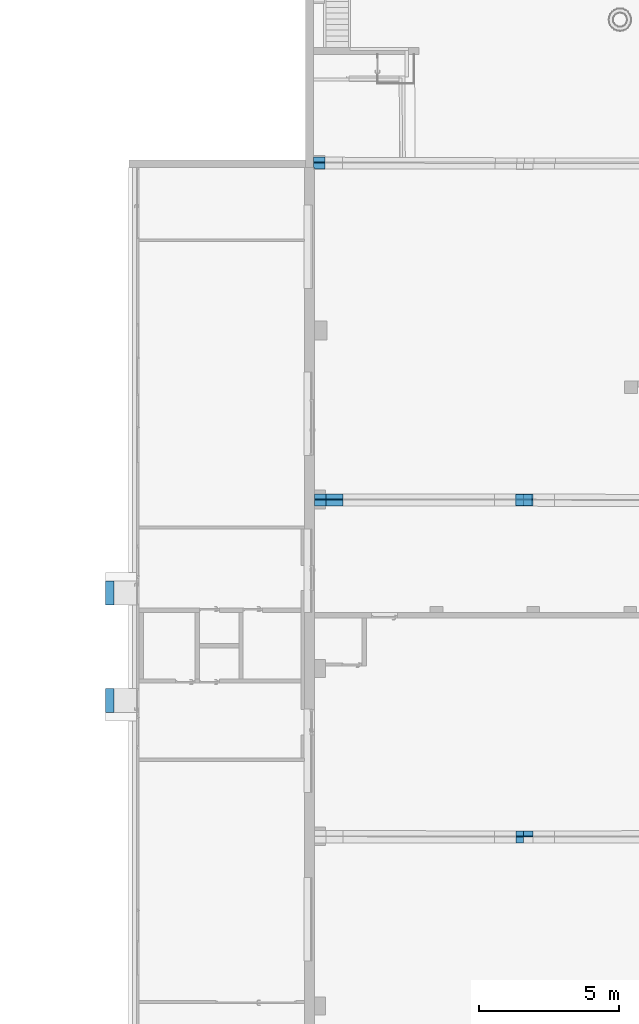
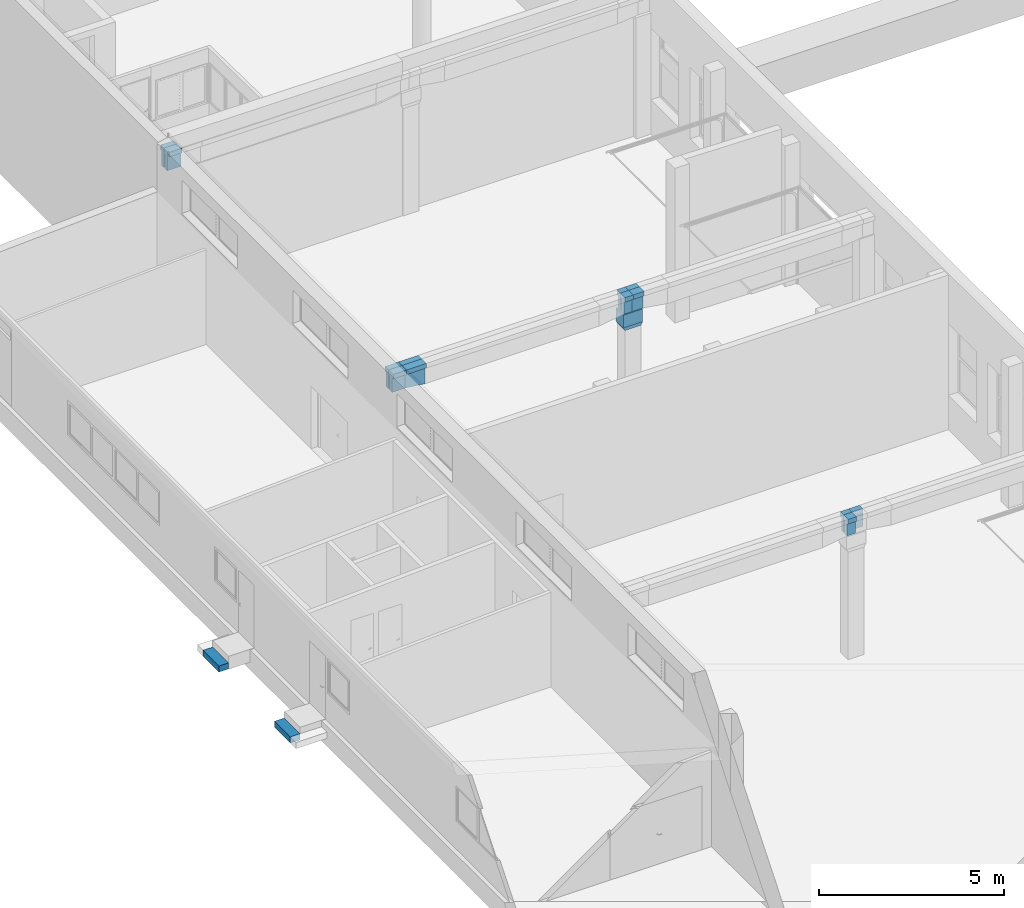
# One storey, part 224 of 301: 17 building element parts, 12 elements without a shape of their own.
"""IFC2X3 building model written with IfcOpenShell, lengths in millimetres."""

import ifcopenshell
import ifcopenshell.guid

model = None  # the IFC model being written
_history = None  # IfcOwnerHistory: only IFC2X3 demands one
_inside = {}  # id of a spatial element -> (the spatial element, [elements in it])
_under = {}  # id of a project, library or spatial element -> (it, [spatial elements below it])
_declared = {}  # id of a project -> (the project, [libraries it declares])
_typed = {}  # id of a type object -> (the type object, [elements of that type])
_made_of = {}  # id of a material, layer set ... -> (it, [elements and type objects made of it])


def new_model(schema):
    """Start an empty IFC model of exactly this schema.

    Asked for "IFC4X3", IfcOpenShell would pick the latest addendum, in which some entities
    have other attributes; the version numbers below select the first issue.
    IFC2X3 requires an IfcOwnerHistory on every rooted entity: one is made here for all.
    """
    global model, _history
    if schema == "IFC4X3":
        model = ifcopenshell.file(schema_version=(4, 3, 0, 0))
    else:
        model = ifcopenshell.file(schema=schema)
    _inside.clear()
    _under.clear()
    _declared.clear()
    _typed.clear()
    _made_of.clear()
    _history = None
    if model.schema == "IFC2X3":
        org = make("IfcOrganization", Name="unknown")
        user = make(
            "IfcPersonAndOrganization",
            ThePerson=make("IfcPerson", FamilyName="unknown"),
            TheOrganization=org,
        )
        app = make(
            "IfcApplication",
            ApplicationDeveloper=org,
            Version="unknown",
            ApplicationFullName="unknown",
            ApplicationIdentifier="unknown",
        )
        _history = make(
            "IfcOwnerHistory",
            OwningUser=user,
            OwningApplication=app,
            ChangeAction="ADDED",
            CreationDate=0,
        )
    return model


def make(cls, **values):
    """One entity of the class cls with the attributes given. An attribute that is None is left unset."""
    return model.create_entity(
        cls, **{name: value for name, value in values.items() if value is not None}
    )


def entity(cls, *values):
    """Any entity or typed value of the class cls, its attributes in the order of the schema. None: left unset."""
    e = model.create_entity(cls)
    for i, value in enumerate(values):
        if value is not None:
            e[i] = value
    return e


def rooted(cls, **values):
    """An entity with a GlobalId (a new one), such as an element, a storey or a relation."""
    return make(cls, GlobalId=ifcopenshell.guid.new(), OwnerHistory=_history, **values)


def si_unit(unit_type, name, prefix=None):
    """IfcSIUnit, for example si_unit("LENGTHUNIT", "METRE", prefix="MILLI")."""
    return make("IfcSIUnit", UnitType=unit_type, Prefix=prefix, Name=name)


def converted_unit(unit_type, name, factor, base, dimensions=None, offset=None):
    """IfcConversionBasedUnit, such as the inch: factor (a typed value) times the base unit."""
    return make(
        "IfcConversionBasedUnit"
        if offset is None
        else "IfcConversionBasedUnitWithOffset",
        ConversionOffset=offset,
        Dimensions=None
        if dimensions is None
        else entity("IfcDimensionalExponents", *dimensions),
        UnitType=unit_type,
        Name=name,
        ConversionFactor=make(
            "IfcMeasureWithUnit", ValueComponent=factor, UnitComponent=base
        ),
    )


def derived_unit(unit_type, elements):
    """IfcDerivedUnit: a product of units, each with its exponent."""
    return make(
        "IfcDerivedUnit",
        Elements=[
            make("IfcDerivedUnitElement", Unit=unit, Exponent=power)
            for unit, power in elements
        ],
        UnitType=unit_type,
    )


def money_unit(currency):
    """IfcMonetaryUnit."""
    return make("IfcMonetaryUnit", Currency=currency)


def assignment(units):
    """IfcUnitAssignment: the units of a project."""
    return None if units is None else make("IfcUnitAssignment", Units=units)


def point(xyz):
    """IfcCartesianPoint."""
    return None if xyz is None else make("IfcCartesianPoint", Coordinates=xyz)


def direction(xyz):
    """IfcDirection."""
    return None if xyz is None else make("IfcDirection", DirectionRatios=xyz)


def frame(location, z_axis=None, x_axis=None):
    """IfcAxis2Placement3D, a coordinate frame: its origin and axes. An axis left out is left unset."""
    return make(
        "IfcAxis2Placement3D",
        Location=point(location),
        Axis=direction(z_axis),
        RefDirection=direction(x_axis),
    )


def origin_with_axes():
    """The frame at (0, 0, 0) with the z axis (0, 0, 1) and the x axis (1, 0, 0) written out."""
    return frame((0.0, 0.0, 0.0), z_axis=(0.0, 0.0, 1.0), x_axis=(1.0, 0.0, 0.0))


def place(relative_to, where):
    """IfcLocalPlacement: puts the frame where relative to a parent placement (None: the world)."""
    return make(
        "IfcLocalPlacement", PlacementRelTo=relative_to, RelativePlacement=where
    )


def context(
    kind, dimensions, precision=None, world=None, true_north=None, identifier=None
):
    """IfcGeometricRepresentationContext, for example the 3D "Model" context."""
    return make(
        "IfcGeometricRepresentationContext",
        ContextIdentifier=identifier,
        ContextType=kind,
        CoordinateSpaceDimension=dimensions,
        Precision=precision,
        WorldCoordinateSystem=world,
        TrueNorth=true_north,
    )


def subcontext(parent, identifier, kind, view, scale=None):
    """IfcGeometricRepresentationSubContext, for example "Body" below "Model"."""
    return make(
        "IfcGeometricRepresentationSubContext",
        ContextIdentifier=identifier,
        ContextType=kind,
        ParentContext=parent,
        TargetScale=scale,
        TargetView=view,
    )


def project(units=None, contexts=None):
    """IfcProject with its units and contexts."""
    return rooted(
        "IfcProject",
        Name="project",
        RepresentationContexts=contexts,
        UnitsInContext=assignment(units),
    )


def spatial(cls, under=None, at=None, **own):
    """A site, building, storey or space (cls), placed at a placement, below another one or the project."""
    s = rooted(cls, ObjectPlacement=at, **own)
    if under is not None:
        _under.setdefault(under.id(), (under, []))[1].append(s)
    return s


def faces_of(points, faces, orient=None, outer=None):
    """IfcFace entities. A face is a list of loops; a loop is a list of indices into points, from 0.

    orient and outer hold one flag for each loop. By default every Orientation is true, the
    first loop of a face is its IfcFaceOuterBound and the others are IfcFaceBound.
    """
    made = []
    for i, loops in enumerate(faces):
        bounds = []
        for j, loop in enumerate(loops):
            is_outer = j == 0 if outer is None else outer[i][j]
            bounds.append(
                make(
                    "IfcFaceOuterBound" if is_outer else "IfcFaceBound",
                    Bound=make("IfcPolyLoop", Polygon=[points[k] for k in loop]),
                    Orientation=True if orient is None else orient[i][j],
                )
            )
        made.append(make("IfcFace", Bounds=bounds))
    return made


def faceted_brep(points, faces, orient=None, outer=None, voids=None):
    """IfcFacetedBrep: a solid bounded by flat faces; with voids (closed shells), ...WithVoids."""
    shared = [point(p) for p in points]
    hull = make("IfcClosedShell", CfsFaces=faces_of(shared, faces, orient, outer))
    if voids is None:
        return make("IfcFacetedBrep", Outer=hull)
    return make(
        "IfcFacetedBrepWithVoids",
        Outer=hull,
        Voids=[
            make(cls, CfsFaces=faces_of(shared, fs, o, b)) for cls, fs, o, b in voids
        ],
    )


def shape(context_of_items, identifier, shape_type, items):
    """IfcShapeRepresentation: the items that make up one representation, for example the "Body"."""
    return make(
        "IfcShapeRepresentation",
        ContextOfItems=context_of_items,
        RepresentationIdentifier=identifier,
        RepresentationType=shape_type,
        Items=items,
    )


def material(Name=None, Category=None):
    """IfcMaterial."""
    return make("IfcMaterial", Name=Name, Category=Category)


def made_of(thing, what):
    """Note that an element or type object is made of a material, layer set ...; save() writes the relation."""
    if what is not None:
        _made_of.setdefault(what.id(), (what, []))[1].append(thing)
    return thing


def type_object(cls, material=None, **own):
    """A type object (cls), such as IfcWallType, which elements share."""
    return made_of(rooted(cls, **own), material)


def element(
    cls,
    number,
    at=None,
    inside=None,
    cuts=None,
    type_object=None,
    material=None,
    context=None,
    identifier="Body",
    shape_type=None,
    held_by="IfcProductDefinitionShape",
    body=None,
    shapes=None,
    **own,
):
    """One element of the class cls, such as IfcWall. Its Tag is "e" and its number.

    at: its placement. inside: the storey or other place that contains it. cuts: it is an
    opening in that element (IfcRelVoidsElement). A single representation is given by context,
    identifier, shape_type and body (its items); several are given by shapes. held_by: the class
    of the entity that holds the representations. save() writes the other relations.
    """
    e = rooted(cls, Tag="e%d" % number, ObjectPlacement=at, **own)
    if body is not None:
        shapes = [shape(context, identifier, shape_type, body)]
    if shapes is not None:
        e.Representation = make(held_by, Representations=shapes)
    if inside is not None:
        _inside.setdefault(inside.id(), (inside, []))[1].append(e)
    if cuts is not None:
        rooted(
            "IfcRelVoidsElement", RelatingBuildingElement=cuts, RelatedOpeningElement=e
        )
    if type_object is not None:
        _typed.setdefault(type_object.id(), (type_object, []))[1].append(e)
    return made_of(e, material)


def aggregate(whole, parts):
    """IfcRelAggregates: a whole, such as a stair, and the parts it consists of."""
    return rooted("IfcRelAggregates", RelatingObject=whole, RelatedObjects=parts)


def save(model, path):
    """Write the relations noted so far, then the file.

    IfcRelAggregates (storeys below a building ...), IfcRelContainedInSpatialStructure (elements
    in a storey), IfcRelDefinesByType, IfcRelAssociatesMaterial and IfcRelDeclares: one each for
    every whole, place, type object, material and project.
    """
    for whole, parts in _under.values():
        aggregate(whole, parts)
    for where, things in _inside.values():
        rooted(
            "IfcRelContainedInSpatialStructure",
            RelatedElements=things,
            RelatingStructure=where,
        )
    for kind, things in _typed.values():
        rooted("IfcRelDefinesByType", RelatedObjects=things, RelatingType=kind)
    for what, things in _made_of.values():
        rooted("IfcRelAssociatesMaterial", RelatedObjects=things, RelatingMaterial=what)
    for by, libraries in _declared.values():
        rooted("IfcRelDeclares", RelatingContext=by, RelatedDefinitions=libraries)
    model.write(path)


model = new_model("IFC2X3")

# Units and contexts
model_context = context("Model", 3, precision=0.01, world=origin_with_axes(), true_north=direction((0.0, 1.0)))
body_context = subcontext(model_context, "Body", "Model", "MODEL_VIEW")
ifc_project = project(units=[si_unit("LENGTHUNIT", "METRE", prefix="MILLI"), si_unit("AREAUNIT", "SQUARE_METRE"), si_unit("VOLUMEUNIT", "CUBIC_METRE"), converted_unit("PLANEANGLEUNIT", "DEGREE", entity("IfcPlaneAngleMeasure", 0.0174532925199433), si_unit("PLANEANGLEUNIT", "RADIAN"), dimensions=[0, 0, 0, 0, 0, 0, 0]), money_unit("EUR"), converted_unit("TIMEUNIT", "Year", entity("IfcTimeMeasure", 31557600.0), si_unit("TIMEUNIT", "SECOND"), dimensions=[0, 0, 1, 0, 0, 0, 0]), si_unit("MASSUNIT", "GRAM", prefix="KILO"), si_unit("THERMODYNAMICTEMPERATUREUNIT", "DEGREE_CELSIUS"), si_unit("LUMINOUSINTENSITYUNIT", "LUMEN"), si_unit("ENERGYUNIT", "JOULE", prefix="MEGA"), derived_unit("THERMALCONDUCTANCEUNIT", [(si_unit("POWERUNIT", "WATT"), 1), (si_unit("LENGTHUNIT", "METRE"), -1), (si_unit("THERMODYNAMICTEMPERATUREUNIT", "KELVIN"), -1)]), derived_unit("SPECIFICHEATCAPACITYUNIT", [(si_unit("ENERGYUNIT", "JOULE"), 1), (si_unit("MASSUNIT", "GRAM", prefix="KILO"), -1), (si_unit("THERMODYNAMICTEMPERATUREUNIT", "KELVIN"), -1)]), derived_unit("MASSDENSITYUNIT", [(si_unit("MASSUNIT", "GRAM", prefix="KILO"), 1), (si_unit("VOLUMEUNIT", "CUBIC_METRE"), -1)])], contexts=[model_context])

# Site, building, storey
site_placement = place(None, frame((0.0, 0.0, 8650.0), z_axis=(0.0, 0.0, 1.0), x_axis=(1.0, 0.0, 0.0)))
site = spatial("IfcSite", under=ifc_project, at=site_placement, Name="43301:001:0844", CompositionType="ELEMENT")
building_placement = place(site_placement, origin_with_axes())
building = spatial("IfcBuilding", under=site, at=building_placement, Name="Kuressaare Ametikooli tuulikute mehaanikute õppekorpus", CompositionType="ELEMENT")
storey_placement = place(building_placement, origin_with_axes())
storey = spatial("IfcBuildingStorey", under=building, at=storey_placement, Name="1.korrus", CompositionType="ELEMENT", Elevation=0.0)

# Stair, building element part
stair_1_placement = place(storey_placement, frame((81268.61013779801, 94679.2841910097, -755.0), z_axis=(0.0, 0.0, 1.0), x_axis=(-0.000277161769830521, -0.999999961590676, 0.0)))
stair_1 = element("IfcStair", 1, at=stair_1_placement, inside=storey, Name="Trepp", ShapeType="NOTDEFINED")
ifc_material_1 = material(Name="GENEERILINE - KONSTRUKTRIOON")
building_element_part_1_placement = place(stair_1_placement, origin_with_axes())
building_element_part_1 = element("IfcBuildingElementPart", 2, at=building_element_part_1_placement, material=ifc_material_1, Name="GENEERILINE - KONSTRUKTRIOON", context=body_context, shape_type="Brep", body=[
    faceted_brep([(0.185698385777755, -477.1182246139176, 212.5), (-854.5632248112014, -477.2624430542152, 212.5), (-854.5632248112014, -477.2624430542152, 12.49999999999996), (0.185698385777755, -477.1182246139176, 12.49999999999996), (0.1345055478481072, -173.7106222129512, 212.5), (-854.6144176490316, -173.8548411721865, 212.5), (-854.6144176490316, -173.8548411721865, 12.49999999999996), (0.1345055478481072, -173.7106222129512, 12.49999999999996)], [[[0, 1, 2, 3]], [[0, 4, 5, 1]], [[1, 5, 6, 2]], [[2, 6, 7, 3]], [[4, 0, 3, 7]], [[5, 4, 7, 6]]]),
])
aggregate(stair_1, [building_element_part_1])

stair_2_placement = place(storey_placement, frame((81268.61013779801, 91683.83941314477, -755.0), z_axis=(0.0, 0.0, 1.0), x_axis=(-0.000277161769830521, 0.999999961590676, 0.0)))
stair_2 = element("IfcStair", 3, at=stair_2_placement, inside=storey, Name="Trepp", ShapeType="NOTDEFINED")
building_element_part_2_placement = place(stair_2_placement, origin_with_axes())
building_element_part_2 = element("IfcBuildingElementPart", 4, at=building_element_part_2_placement, material=ifc_material_1, Name="GENEERILINE - KONSTRUKTRIOON", context=body_context, shape_type="Brep", body=[
    faceted_brep([(0.1856983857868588, 477.1182246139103, 212.5), (0.1856983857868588, 477.1182246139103, 12.49999999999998), (-854.5632248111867, 477.2624430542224, 12.49999999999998), (-854.5632248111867, 477.2624430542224, 212.5), (0.1345055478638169, 173.7106222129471, 212.5), (0.1345055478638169, 173.7106222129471, 12.49999999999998), (-854.6144176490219, 173.8548411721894, 12.49999999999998), (-854.6144176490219, 173.8548411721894, 212.5)], [[[0, 1, 2, 3]], [[4, 5, 1, 0]], [[2, 1, 5, 6]], [[3, 2, 6, 7]], [[0, 3, 7, 4]], [[7, 6, 5, 4]]]),
])
aggregate(stair_2, [building_element_part_2])

# Column, building element parts
column_type = type_object("IfcColumnType", Name="Various Structures - 3 Segments - 600 x 400 x 4050 (3533+102+415)", PredefinedType="NOTDEFINED")
column_placement = place(storey_placement, frame((95731.50422307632, 98430.65950164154, -330.0), z_axis=(0.0, 0.0, 1.0), x_axis=(1.0, 0.0, 0.0)))
column = element("IfcColumn", 5, at=column_placement, inside=storey, type_object=column_type)
building_element_part_3_placement = place(column_placement, origin_with_axes())
building_element_part_3 = element("IfcBuildingElementPart", 6, at=building_element_part_3_placement, material=ifc_material_1, Name="GENEERILINE - KONSTRUKTRIOON", context=body_context, shape_type="Brep", body=[
    faceted_brep([(299.9999999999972, -200.0000000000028, 3635.0), (-299.9999999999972, -200.0000000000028, 3635.0), (-250.0, -200.0000000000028, 3532.979557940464), (250.0, -200.0000000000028, 3532.979557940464), (299.9999999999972, 200.0000000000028, 3635.0), (-299.9999999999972, 200.0000000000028, 3635.0), (-250.0, 200.0000000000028, 3532.979557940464), (250.0, 200.0000000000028, 3532.979557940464)], [[[0, 1, 2, 3]], [[4, 5, 1, 0]], [[1, 5, 6, 2]], [[7, 3, 2, 6]], [[4, 0, 3, 7]], [[5, 4, 7, 6]]]),
])
building_element_part_4_placement = place(column_placement, origin_with_axes())
building_element_part_4 = element("IfcBuildingElementPart", 7, at=building_element_part_4_placement, material=ifc_material_1, Name="GENEERILINE - KONSTRUKTRIOON", context=body_context, shape_type="Brep", body=[
    faceted_brep([(-299.9999999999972, -200.0000000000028, 4050.0), (-299.9999999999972, -200.0000000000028, 3635.0), (299.9999999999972, -200.0000000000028, 3635.0), (299.9999999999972, -200.0000000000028, 4050.0), (-299.9999999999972, 200.0000000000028, 4050.0), (-299.9999999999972, 200.0000000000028, 3635.0), (299.9999999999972, 200.0000000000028, 3635.0), (299.9999999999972, 200.0000000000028, 4050.0)], [[[0, 1, 2, 3]], [[4, 5, 1, 0]], [[2, 1, 5, 6]], [[3, 2, 6, 7]], [[4, 0, 3, 7]], [[7, 6, 5, 4]]]),
])
aggregate(column, [building_element_part_3, building_element_part_4])

# Beam, building element part
beam_type_1 = type_object("IfcBeamType", Name="Various Structures - 5 Segments - 250 x 700 x 7497 (338+766+5404+640+350)", PredefinedType="NOTDEFINED")
beam_1_placement = place(storey_placement, frame((95731.40168846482, 98524.34147844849, 4300.0), z_axis=(0.0, 0.0, 1.0), x_axis=(-0.004564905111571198, -0.999989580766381, 0.0)))
beam_1 = element("IfcBeam", 8, at=beam_1_placement, inside=storey, type_object=beam_type_1)
ifc_material_2 = material(Name="Raudbetoon")
building_element_part_5_placement = place(beam_1_placement, origin_with_axes())
building_element_part_5 = element("IfcBuildingElementPart", 9, at=building_element_part_5_placement, material=ifc_material_2, Name="Raudbetoon", context=body_context, shape_type="Brep", body=[
    faceted_brep([(125.0055545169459, 0.0, 0.0), (125.0055545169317, 0.2967471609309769, 0.0), (65.00617967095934, 0.2967471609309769, 0.0), (65.00617967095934, 337.7568168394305, 0.0), (-125.0055545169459, 337.7568168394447, 0.0), (-125.0055545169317, 0.0, 0.0), (125.005282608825, 0.0, -150.0000000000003), (125.0052826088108, 0.2967471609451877, -150.0000000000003), (65.00645157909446, 0.2967471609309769, -150.0000000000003), (95.00586709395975, 0.2967471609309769, -157.1998597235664), (65.00645157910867, 337.7568168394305, -150.0000000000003), (95.00586709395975, 337.7568168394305, -157.1998597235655), (64.99999999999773, 337.7568168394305, -164.4012678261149), (64.99999999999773, 337.7568168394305, -579.8231697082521), (-65.00000000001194, 337.7568168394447, -579.8231697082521), (-65.00000000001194, 337.7568168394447, -164.4012678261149), (-125.0052826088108, 337.7568168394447, -150.0000000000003), (-125.0052826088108, 0.0, -150.0000000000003), (-64.99999999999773, 0.0, -164.4012678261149), (-64.99999999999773, 0.0, -579.8231697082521), (64.99999999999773, 0.0, -579.8231697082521), (64.99999999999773, 0.0, -164.4012678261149)], [[[0, 1, 2, 3, 4, 5]], [[6, 7, 1, 0]], [[8, 2, 1, 7, 9]], [[8, 10, 3, 2]], [[3, 10, 11, 12, 13, 14, 15, 16, 4]], [[17, 5, 4, 16]], [[18, 19, 20, 21, 6, 0, 5, 17]], [[11, 9, 7, 6, 21, 12]], [[9, 11, 10, 8]], [[21, 20, 13, 12]], [[20, 19, 14, 13]], [[19, 18, 15, 14]], [[18, 17, 16, 15]]]),
])
aggregate(beam_1, [building_element_part_5])

# Beam, building element parts
beam_type_2 = type_object("IfcBeamType", Name="Various Structures - 5 Segments - 250 x 700 x 7473 (262+767+5416+621+406)", PredefinedType="NOTDEFINED")
beam_2_placement = place(storey_placement, frame((95731.40168846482, 98524.34147844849, 4300.0), z_axis=(0.0, 0.0, 1.0), x_axis=(0.0, 1.0, 0.0)))
beam_2 = element("IfcBeam", 10, at=beam_2_placement, inside=storey, type_object=beam_type_2)
building_element_part_6_placement = place(beam_2_placement, origin_with_axes())
building_element_part_6 = element("IfcBuildingElementPart", 11, at=building_element_part_6_placement, material=ifc_material_2, Name="Raudbetoon", context=body_context, shape_type="Brep", body=[
    faceted_brep([(-125.0055545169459, 0.570641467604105, 0.0), (-125.0055545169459, 0.2738941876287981, 0.0), (-65.00685697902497, 2.972811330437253e-06, 0.0), (125.0055545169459, 0.0, 0.0), (125.0055545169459, 261.7777961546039, 0.0), (-65.00555451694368, 261.7777961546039, 0.0), (-65.00555451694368, 0.570641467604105, 0.0), (-125.0052826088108, 0.570641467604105, -150.0000000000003), (-125.0052826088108, 0.273892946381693, -150.0000000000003), (-65.00712888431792, 4.214044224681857e-06, -150.0000000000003), (-95.00604946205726, 0.1369478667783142, -157.1998159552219), (-95.00636204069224, 0.0, -157.1997409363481), (-64.99999999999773, 0.0, -164.4012678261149), (-64.99999999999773, 0.0, -579.8231697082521), (64.99999999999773, 0.0, -579.8231697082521), (64.99999999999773, 0.0, -164.4012678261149), (125.0052826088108, 0.0, -150.0000000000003), (125.0052826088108, 261.7777961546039, -150.0000000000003), (-64.99999999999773, 261.7777961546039, -164.4012678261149), (-95.00555451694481, 261.7777961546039, -157.1999347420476), (-65.0058264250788, 261.7777961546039, -150.0000000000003), (64.99999999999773, 261.7777961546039, -164.4012678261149), (64.99999999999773, 261.7777961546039, -579.8231697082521), (-64.99999999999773, 261.7777961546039, -579.8231697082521), (-65.0058264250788, 0.570641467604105, -150.0000000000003), (-95.00555451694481, 0.570641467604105, -157.1999347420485)], [[[0, 1, 2, 3, 4, 5, 6]], [[7, 8, 1, 0]], [[9, 2, 1, 8, 10]], [[2, 9, 11, 12, 13, 14, 15, 16, 3]], [[4, 3, 16, 17]], [[18, 19, 20, 5, 4, 17, 21, 22, 23]], [[20, 24, 6, 5]], [[25, 7, 0, 6, 24]], [[11, 10, 8, 7, 25, 19, 18, 12]], [[10, 11, 9]], [[23, 13, 12, 18]], [[22, 14, 13, 23]], [[21, 15, 14, 22]], [[17, 16, 15, 21]], [[24, 20, 19, 25]]]),
])
building_element_part_7_placement = place(beam_2_placement, origin_with_axes())
building_element_part_7 = element("IfcBuildingElementPart", 12, at=building_element_part_7_placement, material=ifc_material_2, Name="Raudbetoon", context=body_context, shape_type="Brep", body=[
    faceted_brep([(-65.00590413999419, 6600.729668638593, 0.0), (-65.00555451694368, 6445.38326261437, 0.0), (-65.00555451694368, 6444.812621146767, 0.0), (125.0050883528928, 6444.812621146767, 0.0), (125.0052048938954, 6600.159027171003, 0.0), (125.0054379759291, 6910.851839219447, 0.0), (125.0055545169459, 7066.198245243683, 0.0), (-65.00555494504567, 7066.198245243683, 0.0), (-65.00567105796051, 6911.422480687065, 0.0), (-65.00569047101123, 6445.38326261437, -75.00000000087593), (-65.0058264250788, 6445.38326261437, -150.0000000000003), (-65.0058264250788, 6444.812621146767, -150.0000000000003), (-95.00530423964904, 6444.812621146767, -157.1998746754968), (-64.99999999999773, 6444.812621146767, -164.4011476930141), (-64.99999999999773, 6444.812621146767, -700.000000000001), (64.99999999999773, 6444.812621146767, -700.000000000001), (64.99999999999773, 6444.812621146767, -164.4011476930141), (125.0047820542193, 6444.812621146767, -150.0000000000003), (125.0049352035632, 6444.812621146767, -75.00000000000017), (125.0051768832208, 6755.505433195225, -75.00000000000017), (125.0054185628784, 7066.198245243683, -75.00000000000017), (-65.00582688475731, 7066.198245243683, -150.0000000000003), (-65.00569143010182, 7066.198245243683, -75.27550112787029), (-65.00569039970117, 7066.198245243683, -74.72449887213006), (125.0052826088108, 7066.198245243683, -150.0000000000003), (64.99999999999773, 7066.198245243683, -164.4012678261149), (64.99999999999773, 7066.198245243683, -629.9999999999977), (-64.99999999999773, 7066.198245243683, -629.9999999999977), (-64.99999999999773, 7066.198245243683, -164.4012678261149), (-95.00555474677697, 7066.198245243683, -157.1999346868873), (-65.00593215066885, 6756.076074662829, -75.00000000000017), (-65.00620184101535, 6600.729668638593, -150.0000000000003), (-65.00595156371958, 6911.422480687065, -150.0000000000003), (125.00515747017, 6910.851839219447, -150.0000000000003), (125.0049071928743, 6600.159027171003, -150.0000000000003)], [[[0, 1, 2, 3, 4, 5, 6, 7, 8]], [[0, 9, 1]], [[10, 11, 2, 1, 9]], [[2, 11, 12, 13, 14, 15, 16, 17, 18, 3]], [[3, 18, 4]], [[4, 19, 5]], [[5, 20, 6]], [[21, 22, 23, 7, 6, 20, 24, 25, 26, 27, 28, 29]], [[7, 23, 8]], [[8, 30, 0]], [[30, 31, 9, 0]], [[29, 12, 11, 10, 31, 32, 21]], [[31, 10, 9]], [[13, 12, 29, 28]], [[13, 28, 27, 14]], [[15, 14, 27, 26]], [[15, 26, 25, 16]], [[16, 25, 24, 33, 34, 17]], [[17, 34, 18]], [[34, 19, 4, 18]], [[33, 20, 5, 19]], [[21, 32, 22]], [[30, 8, 23, 22, 32]], [[33, 24, 20]], [[30, 32, 31]], [[34, 33, 19]]]),
])
building_element_part_8_placement = place(beam_2_placement, origin_with_axes())
building_element_part_8 = element("IfcBuildingElementPart", 13, at=building_element_part_8_placement, material=ifc_material_2, Name="Raudbetoon", context=body_context, shape_type="Brep", body=[
    faceted_brep([(125.0052826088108, 7066.198245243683, -150.0000000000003), (125.0052826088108, 7472.645241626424, -150.0000000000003), (125.0055545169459, 7472.645241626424, 0.0), (125.0055545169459, 7066.198245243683, 0.0), (64.99999999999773, 7066.198245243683, -164.4012678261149), (64.99999999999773, 7472.645241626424, -164.4012678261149), (-65.0058264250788, 7472.645241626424, -150.0000000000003), (-65.00555451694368, 7472.645241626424, 0.0), (64.99999999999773, 7472.645241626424, -629.999999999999), (-64.99999999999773, 7472.645241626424, -629.999999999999), (-64.99999999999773, 7472.645241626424, -164.4012678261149), (-95.00555452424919, 7472.645241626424, -157.1999347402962), (-65.00555451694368, 7066.768886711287, 0.0), (-65.00555494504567, 7066.198245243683, 0.0), (-65.00569039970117, 7066.198245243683, -74.72449887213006), (-65.00569143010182, 7066.198245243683, -75.27550112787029), (-65.00582688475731, 7066.198245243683, -150.0000000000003), (-95.00555474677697, 7066.198245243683, -157.1999346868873), (-64.99999999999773, 7066.198245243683, -164.4012678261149), (-64.99999999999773, 7066.198245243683, -629.999999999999), (64.99999999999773, 7066.198245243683, -629.999999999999), (-65.0058264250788, 7066.768886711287, -150.0000000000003), (-65.00569047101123, 7066.768886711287, -75.00000000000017)], [[[0, 1, 2, 3]], [[4, 5, 1, 0]], [[6, 7, 2, 1, 5, 8, 9, 10, 11]], [[3, 2, 7, 12, 13]], [[13, 14, 15, 16, 17, 18, 19, 20, 4, 0, 3]], [[20, 8, 5, 4]], [[12, 7, 6, 21, 22]], [[19, 9, 8, 20]], [[18, 10, 9, 19]], [[17, 11, 10, 18]], [[21, 6, 11, 17, 16]], [[14, 13, 12, 22]], [[15, 14, 22]], [[16, 15, 22, 21]]]),
])
aggregate(beam_2, [building_element_part_6, building_element_part_7, building_element_part_8])

# Beam, building element part
beam_3_placement = place(storey_placement, frame((95730.8310469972, 98334.3303694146, 4300.0), z_axis=(0.0, 0.0, 1.0), x_axis=(-0.004564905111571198, -0.999989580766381, 0.0)))
beam_3 = element("IfcBeam", 14, at=beam_3_placement, inside=storey, type_object=beam_type_1)
building_element_part_9_placement = place(beam_3_placement, origin_with_axes())
building_element_part_9 = element("IfcBuildingElementPart", 15, at=building_element_part_9_placement, material=ifc_material_2, Name="Raudbetoon", context=body_context, shape_type="Brep", body=[
    faceted_brep([(64.99999999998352, 0.0, -579.8231697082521), (64.99999999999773, 337.7568168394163, -579.8231697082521), (64.99999999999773, 337.7568168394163, -164.4012678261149), (64.99999999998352, 0.0, -164.4012678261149), (-65.00000000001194, 0.0, -579.8231697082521), (-65.00000000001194, 337.7568168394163, -579.8231697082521), (-65.00000000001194, 337.7568168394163, -164.4012678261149), (-125.0052826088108, 337.7568168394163, -150.0000000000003), (-125.0055545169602, 337.7568168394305, 0.0), (125.0055545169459, 337.7568168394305, 0.0), (125.0052826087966, 337.7568168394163, -150.0000000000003), (125.0052826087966, 0.0, -150.0000000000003), (125.0055545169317, 0.0, 0.0), (-125.0055545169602, 0.0, 0.0), (-125.005282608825, 0.0, -150.0000000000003), (-65.00000000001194, 0.0, -164.4012678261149)], [[[0, 1, 2, 3]], [[4, 5, 1, 0]], [[2, 1, 5, 6, 7, 8, 9, 10]], [[3, 2, 10, 11]], [[4, 0, 3, 11, 12, 13, 14, 15]], [[15, 6, 5, 4]], [[14, 7, 6, 15]], [[13, 8, 7, 14]], [[12, 9, 8, 13]], [[11, 10, 9, 12]]]),
])
aggregate(beam_3, [building_element_part_9])

# Beam, building element parts
beam_type_3 = type_object("IfcBeamType", Name="Various Structures - 5 Segments - 250 x 700 x 7472 (262+767+5416+621+406)", PredefinedType="NOTDEFINED")
beam_4_placement = place(storey_placement, frame((95730.8310469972, 98334.3303694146, 4300.0), z_axis=(0.0, 0.0, 1.0), x_axis=(0.0, 1.0, 0.0)))
beam_4 = element("IfcBeam", 16, at=beam_4_placement, inside=storey, type_object=beam_type_3)
building_element_part_10_placement = place(beam_4_placement, origin_with_axes())
building_element_part_10 = element("IfcBuildingElementPart", 17, at=building_element_part_10_placement, material=ifc_material_2, Name="Raudbetoon", context=body_context, shape_type="Brep", body=[
    faceted_brep([(64.99999999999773, 0.0, -579.8231697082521), (64.99999999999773, 261.7777961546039, -579.8231697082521), (64.99999999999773, 261.7777961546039, -164.4012678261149), (64.99999999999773, 0.0, -164.4012678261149), (-64.99999999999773, 0.0, -579.8231697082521), (-64.99999999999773, 261.7777961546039, -579.8231697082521), (-64.99999999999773, 261.7777961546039, -164.4012678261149), (-125.0052826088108, 261.7777961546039, -150.0000000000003), (-125.0055545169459, 261.7777961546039, 0.0), (125.0055545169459, 261.7777961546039, 0.0), (125.0052826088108, 261.7777961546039, -150.0000000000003), (125.0052826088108, 0.0, -150.0000000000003), (125.0055545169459, 0.0, 0.0), (-125.0055545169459, 0.0, 0.0), (-125.0052826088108, 0.0, -150.0000000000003), (-64.99999999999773, 0.0, -164.4012678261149)], [[[0, 1, 2, 3]], [[4, 5, 1, 0]], [[2, 1, 5, 6, 7, 8, 9, 10]], [[3, 2, 10, 11]], [[4, 0, 3, 11, 12, 13, 14, 15]], [[15, 6, 5, 4]], [[14, 7, 6, 15]], [[13, 8, 7, 14]], [[12, 9, 8, 13]], [[11, 10, 9, 12]]]),
])
building_element_part_11_placement = place(beam_4_placement, origin_with_axes())
building_element_part_11 = element("IfcBuildingElementPart", 18, at=building_element_part_11_placement, material=ifc_material_2, Name="Raudbetoon", context=body_context, shape_type="Brep", body=[
    faceted_brep([(64.99999999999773, 7066.198245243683, -164.4012678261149), (64.99999999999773, 6444.812621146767, -164.4011476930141), (64.99999999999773, 6444.812621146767, -700.000000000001), (64.99999999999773, 7066.198245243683, -629.9999999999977), (125.0052826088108, 7066.198245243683, -150.0000000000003), (125.00515747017, 6910.851839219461, -150.0000000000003), (125.0049071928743, 6600.159027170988, -150.0000000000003), (125.0047820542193, 6444.812621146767, -150.0000000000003), (-64.99999999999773, 6444.812621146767, -700.000000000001), (125.0049352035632, 6444.812621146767, -75.00000000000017), (125.0050883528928, 6444.812621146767, 0.0), (-125.0050883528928, 6444.812621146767, 0.0), (-125.0049352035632, 6444.812621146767, -75.00000000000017), (-125.0047820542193, 6444.812621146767, -150.0000000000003), (-64.99999999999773, 6444.812621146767, -164.4011476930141), (-64.99999999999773, 7066.198245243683, -629.9999999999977), (-64.99999999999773, 7066.198245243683, -164.4012678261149), (-125.0052826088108, 7066.198245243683, -150.0000000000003), (-125.0054185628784, 7066.198245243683, -75.00000000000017), (-125.0055545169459, 7066.198245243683, 0.0), (125.0055545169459, 7066.198245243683, 0.0), (125.0054185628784, 7066.198245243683, -75.00000000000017), (125.0051768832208, 6755.505433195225, -75.00000000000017), (125.0052048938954, 6600.159027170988, 0.0), (-125.0054379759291, 6910.851839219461, 0.0), (-125.0052048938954, 6600.159027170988, 0.0), (125.0054379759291, 6910.851839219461, 0.0), (-125.0049071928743, 6600.159027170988, -150.0000000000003), (-125.00515747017, 6910.851839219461, -150.0000000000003), (-125.0051768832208, 6755.505433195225, -75.00000000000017)], [[[0, 1, 2, 3]], [[4, 5, 6, 7, 1, 0]], [[8, 2, 1, 7, 9, 10, 11, 12, 13, 14]], [[15, 3, 2, 8]], [[0, 3, 15, 16, 17, 18, 19, 20, 21, 4]], [[21, 5, 4]], [[22, 6, 5]], [[9, 7, 6]], [[23, 10, 9]], [[19, 24, 25, 11, 10, 23, 26, 20]], [[12, 11, 25]], [[27, 13, 12]], [[16, 14, 13, 27, 28, 17]], [[15, 8, 14, 16]], [[17, 28, 18]], [[18, 24, 19]], [[20, 26, 21]], [[26, 22, 5, 21]], [[23, 9, 6, 22]], [[29, 25, 24]], [[26, 23, 22]], [[27, 12, 25, 29]], [[28, 27, 29]], [[28, 29, 24, 18]]]),
])
building_element_part_12_placement = place(beam_4_placement, origin_with_axes())
building_element_part_12 = element("IfcBuildingElementPart", 19, at=building_element_part_12_placement, material=ifc_material_2, Name="Raudbetoon", context=body_context, shape_type="Brep", body=[
    faceted_brep([(125.0052826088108, 7066.198245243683, -150.0000000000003), (125.0052826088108, 7472.07460015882, -150.0000000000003), (125.0055545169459, 7472.07460015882, 0.0), (125.0055545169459, 7066.198245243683, 0.0), (64.99999999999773, 7066.198245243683, -164.4012678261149), (64.99999999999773, 7472.07460015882, -164.4012678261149), (-125.0052826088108, 7472.07460015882, -150.0000000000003), (-125.0055545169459, 7472.07460015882, 0.0), (64.99999999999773, 7472.07460015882, -629.999999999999), (-64.99999999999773, 7472.07460015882, -629.999999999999), (-64.99999999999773, 7472.07460015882, -164.4012678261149), (-125.0055545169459, 7066.198245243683, 0.0), (-64.99999999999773, 7066.198245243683, -164.4012678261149), (-64.99999999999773, 7066.198245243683, -629.999999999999), (64.99999999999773, 7066.198245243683, -629.999999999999), (-125.0052826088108, 7066.198245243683, -150.0000000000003)], [[[0, 1, 2, 3]], [[4, 5, 1, 0]], [[6, 7, 2, 1, 5, 8, 9, 10]], [[3, 2, 7, 11]], [[12, 13, 14, 4, 0, 3, 11, 15]], [[14, 8, 5, 4]], [[11, 7, 6, 15]], [[13, 9, 8, 14]], [[12, 10, 9, 13]], [[15, 6, 10, 12]]]),
])
aggregate(beam_4, [building_element_part_10, building_element_part_11, building_element_part_12])

# Beam, building element part
beam_type_4 = type_object("IfcBeamType", Name="Various Structures - 5 Segments - 250 x 700 x 7549 (262+767+5479+621+420)", PredefinedType="NOTDEFINED")
beam_5_placement = place(storey_placement, frame((95768.13751728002, 110534.9689250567, 4300.0), z_axis=(0.0, 0.0, 1.0), x_axis=(0.003367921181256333, 0.9999943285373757, 0.0)))
beam_5 = element("IfcBeam", 20, at=beam_5_placement, inside=storey, type_object=beam_type_4)
building_element_part_13_placement = place(beam_5_placement, origin_with_axes())
building_element_part_13 = element("IfcBuildingElementPart", 21, at=building_element_part_13_placement, material=ifc_material_2, Name="Raudbetoon", context=body_context, shape_type="Brep", body=[
    faceted_brep([(64.99999999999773, 7549.435705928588, -629.999999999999), (-4.831690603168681e-09, 7549.435705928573, -629.999999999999), (-4.831690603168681e-09, 7549.435705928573, 0.0), (125.0055545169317, 7549.435705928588, 0.0), (125.0052826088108, 7549.435705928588, -150.0000000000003), (64.99999999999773, 7549.435705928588, -164.4012678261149), (-65.00000000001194, 7129.657185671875, -629.999999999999), (-65.00000000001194, 7549.217287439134, -629.999999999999), (64.99999999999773, 7129.657185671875, -629.999999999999), (-48.19878587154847, 7549.273744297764, -150.0000000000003), (-48.19851396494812, 7549.273745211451, 0.0), (-65.00000000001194, 7549.217287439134, -164.4012678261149), (-86.6019247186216, 7549.144698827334, -159.2168053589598), (-46.7852704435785, 7129.65718567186, 0.0), (125.0055545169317, 7129.657185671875, 0.0), (125.0052826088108, 7129.657185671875, -150.0000000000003), (64.99999999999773, 7129.657185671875, -164.4012678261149), (-65.00000000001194, 7129.657185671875, -164.4012678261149), (-46.78554235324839, 7129.657185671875, -150.0000000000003), (-85.89552338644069, 7129.657185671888, -159.3863422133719)], [[[0, 1, 2, 3, 4, 5]], [[6, 7, 1, 0, 8]], [[9, 10, 2, 1, 7, 11, 12]], [[3, 2, 10, 13, 14]], [[15, 4, 3, 14]], [[16, 5, 4, 15]], [[8, 0, 5, 16]], [[17, 11, 7, 6]], [[16, 15, 14, 13, 18, 19, 17, 6, 8]], [[13, 10, 9, 18]], [[19, 12, 11, 17]], [[18, 9, 12, 19]]]),
])
aggregate(beam_5, [building_element_part_13])

beam_type_5 = type_object("IfcBeamType", Name="Various Structures - 5 Segments - 250 x 700 x 7519 (262+767+5449+621+420)", PredefinedType="NOTDEFINED")
beam_6_placement = place(storey_placement, frame((95737.96269673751, 110387.1904888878, 4300.0), z_axis=(0.0, 0.0, 1.0), x_axis=(0.0, 1.0, 0.0)))
beam_6 = element("IfcBeam", 22, at=beam_6_placement, inside=storey, type_object=beam_type_5)
building_element_part_14_placement = place(beam_6_placement, origin_with_axes())
building_element_part_14 = element("IfcBuildingElementPart", 23, at=building_element_part_14_placement, material=ifc_material_2, Name="Raudbetoon", context=body_context, shape_type="Brep", body=[
    faceted_brep([(-68.34833317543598, 7519.219395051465, 0.0), (-68.3486395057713, 7479.206249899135, 0.0), (-125.0055545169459, 7479.206249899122, 0.0), (-125.0055545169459, 7099.440874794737, 0.0), (125.0055545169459, 7099.440874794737, 0.0), (125.0055545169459, 7519.219395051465, 0.0), (-68.3486395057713, 7479.206249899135, -163.597594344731), (-68.34833317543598, 7519.219395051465, -163.5976678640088), (-125.0052826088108, 7479.206249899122, -150.0000000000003), (-125.0052826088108, 7099.440874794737, -150.0000000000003), (-64.99999999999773, 7099.440874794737, -164.4012678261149), (-64.99999999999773, 7099.440874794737, -629.999999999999), (64.99999999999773, 7099.440874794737, -629.999999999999), (64.99999999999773, 7099.440874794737, -164.4012678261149), (125.0052826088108, 7099.440874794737, -150.0000000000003), (125.0052826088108, 7519.219395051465, -150.0000000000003), (-64.99999999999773, 7519.219395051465, -164.4012678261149), (64.99999999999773, 7519.219395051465, -164.4012678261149), (64.99999999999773, 7519.219395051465, -629.999999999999), (-64.99999999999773, 7519.219395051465, -629.999999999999)], [[[0, 1, 2, 3, 4, 5]], [[6, 1, 0, 7]], [[8, 2, 1, 6]], [[3, 2, 8, 9]], [[10, 11, 12, 13, 14, 4, 3, 9]], [[4, 14, 15, 5]], [[16, 7, 0, 5, 15, 17, 18, 19]], [[8, 6, 7, 16, 10, 9]], [[11, 10, 16, 19]], [[12, 11, 19, 18]], [[13, 12, 18, 17]], [[14, 13, 17, 15]]]),
])
aggregate(beam_6, [building_element_part_14])

beam_type_6 = type_object("IfcBeamType", Name="Various Structures - 5 Segments - 250 x 700 x 7496 (338+766+5404+640+349)", PredefinedType="NOTDEFINED")
beam_7_placement = place(storey_placement, frame((95731.40168846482, 86476.84788949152, 4300.0), z_axis=(0.0, 0.0, 1.0), x_axis=(0.001815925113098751, -0.9999983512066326, 0.0)))
beam_7 = element("IfcBeam", 24, at=beam_7_placement, inside=storey, type_object=beam_type_6)
building_element_part_15_placement = place(beam_7_placement, origin_with_axes())
building_element_part_15 = element("IfcBuildingElementPart", 25, at=building_element_part_15_placement, material=ifc_material_2, Name="Raudbetoon", context=body_context, shape_type="Brep", body=[
    faceted_brep([(-125.0055545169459, 0.0, 0.0), (51.38877465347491, 0.0, 0.0), (52.41258945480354, 337.2437963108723, 0.0), (52.41441914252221, 337.7568168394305, 0.0), (-125.0055545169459, 337.7568168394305, 0.0), (88.19724939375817, 0.0, -158.8339279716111), (51.38904656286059, 0.0, -150.0000000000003), (-125.0052826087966, 0.0, -150.0000000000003), (-64.99999999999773, 0.0, -164.4012678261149), (-64.99999999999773, 0.0, -579.8231697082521), (64.99999999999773, 0.0, -579.8231697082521), (64.99999999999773, 0.0, -164.4012678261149), (52.4128613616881, 337.2437954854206, -150.0000000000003), (52.41272540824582, 337.2437958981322, -75.00000000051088), (52.41456442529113, 337.7568168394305, -74.7990584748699), (52.41456523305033, 337.7568168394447, -75.20094152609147), (52.41471051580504, 337.7568168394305, -150.0000000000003), (88.7100802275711, 337.7568168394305, -158.7108485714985), (65.00000000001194, 337.7568168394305, -164.4012678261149), (65.00000000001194, 337.7568168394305, -579.8231697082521), (-64.99999999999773, 337.7568168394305, -579.8231697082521), (-64.99999999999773, 337.7568168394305, -164.4012678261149), (-125.0052826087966, 337.7568168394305, -150.0000000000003)], [[[0, 1, 2, 3, 4]], [[5, 6, 1, 0, 7, 8, 9, 10, 11]], [[12, 13, 2, 1, 6]], [[3, 2, 13, 14]], [[3, 14, 15, 16, 17, 18, 19, 20, 21, 22, 4]], [[22, 7, 0, 4]], [[16, 12, 6, 5, 17]], [[21, 8, 7, 22]], [[20, 9, 8, 21]], [[19, 10, 9, 20]], [[18, 11, 10, 19]], [[17, 5, 11, 18]], [[15, 13, 12, 16]], [[14, 13, 15]]]),
])
aggregate(beam_7, [building_element_part_15])

beam_type_7 = type_object("IfcBeamType", Name="Various Structures - 5 Segments - 250 x 700 x 7473 (262+767+5416+621+407)", PredefinedType="NOTDEFINED")
beam_8_placement = place(storey_placement, frame((95731.40168846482, 86476.84788949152, 4300.0), z_axis=(0.0, 0.0, 1.0), x_axis=(0.001819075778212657, 0.9999983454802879, 0.0)))
beam_8 = element("IfcBeam", 26, at=beam_8_placement, inside=storey, type_object=beam_type_7)
building_element_part_16_placement = place(beam_8_placement, origin_with_axes())
building_element_part_16 = element("IfcBuildingElementPart", 27, at=building_element_part_16_placement, material=ifc_material_2, Name="Raudbetoon", context=body_context, shape_type="Brep", body=[
    faceted_brep([(-125.0055545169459, 0.3432474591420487, 0.0), (-125.0055545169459, 0.2805585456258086, 0.0), (-51.38874160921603, 0.3246684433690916, 0.0), (-51.38854707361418, 0.0, 0.0), (125.0055545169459, 0.0, 0.0), (125.0055545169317, 261.7777961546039, 0.0), (-51.86425243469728, 261.7777961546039, 0.0), (-51.38892599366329, 0.4771619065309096, 0.0), (-125.005282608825, 0.3432479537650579, -150.0000000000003), (-125.005282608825, 0.2805587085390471, -150.0000000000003), (-51.38901351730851, 0.3246682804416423, -150.0000000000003), (-88.19714475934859, 0.3026134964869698, -158.8339530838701), (-51.38881898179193, 0.0, -150.0000000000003), (-88.19705409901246, 0.0, -158.8339748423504), (-64.99999999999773, 0.0, -164.4012678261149), (-64.99999999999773, 0.0, -579.8231697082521), (64.99999999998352, 0.0, -579.8231697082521), (64.99999999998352, 0.0, -164.4012678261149), (125.0052826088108, 0.0, -150.0000000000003), (125.0052826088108, 261.7777961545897, -150.0000000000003), (-65.00000000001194, 261.7777961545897, -164.4012678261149), (-88.4349337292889, 261.7777961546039, -158.7768837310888), (-51.86452434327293, 261.7777961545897, -150.0000000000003), (64.99999999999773, 261.7777961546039, -164.4012678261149), (64.99999999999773, 261.7777961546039, -579.8231697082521), (-65.00000000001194, 261.7777961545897, -579.8231697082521), (-51.38919790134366, 0.4771614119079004, -150.0000000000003), (-88.19720980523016, 0.4102047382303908, -158.8339374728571)], [[[0, 1, 2, 3, 4, 5, 6, 7]], [[8, 9, 1, 0]], [[10, 2, 1, 9, 11]], [[10, 12, 3, 2]], [[3, 12, 13, 14, 15, 16, 17, 18, 4]], [[5, 4, 18, 19]], [[20, 21, 22, 6, 5, 19, 23, 24, 25]], [[22, 26, 7, 6]], [[27, 8, 0, 7, 26]], [[13, 11, 9, 8, 27, 21, 20, 14]], [[11, 13, 12, 10]], [[25, 15, 14, 20]], [[24, 16, 15, 25]], [[23, 17, 16, 24]], [[19, 18, 17, 23]], [[26, 22, 21, 27]]]),
])
aggregate(beam_8, [building_element_part_16])

beam_9_placement = place(storey_placement, frame((95730.8310469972, 86300.45436199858, 4300.0), z_axis=(0.0, 0.0, 1.0), x_axis=(0.0, 1.0, 0.0)))
beam_9 = element("IfcBeam", 28, at=beam_9_placement, inside=storey, type_object=beam_type_3)
building_element_part_17_placement = place(beam_9_placement, origin_with_axes())
building_element_part_17 = element("IfcBuildingElementPart", 29, at=building_element_part_17_placement, material=ifc_material_2, Name="Raudbetoon", context=body_context, shape_type="Brep", body=[
    faceted_brep([(64.99999999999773, 0.0, -579.8231697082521), (64.99999999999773, 261.7777961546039, -579.8231697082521), (64.99999999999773, 261.7777961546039, -164.4012678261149), (64.99999999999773, 0.0, -164.4012678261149), (-64.99999999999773, 0.0, -579.8231697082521), (-64.99999999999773, 261.7777961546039, -579.8231697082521), (-64.99999999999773, 261.7777961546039, -164.4012678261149), (-125.0052826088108, 261.7777961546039, -150.0000000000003), (-125.0055545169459, 261.7777961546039, 0.0), (125.0055545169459, 261.7777961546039, 0.0), (125.0052826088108, 261.7777961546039, -150.0000000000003), (125.0052826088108, 0.0, -150.0000000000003), (125.0055545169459, 0.0, 0.0), (-125.0055545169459, 0.0, 0.0), (-125.0052826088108, 0.0, -150.0000000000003), (-64.99999999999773, 0.0, -164.4012678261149)], [[[0, 1, 2, 3]], [[4, 5, 1, 0]], [[2, 1, 5, 6, 7, 8, 9, 10]], [[3, 2, 10, 11]], [[4, 0, 3, 11, 12, 13, 14, 15]], [[15, 6, 5, 4]], [[14, 7, 6, 15]], [[13, 8, 7, 14]], [[12, 9, 8, 13]], [[11, 10, 9, 12]]]),
])
aggregate(beam_9, [building_element_part_17])

save(model, "model.ifc")
